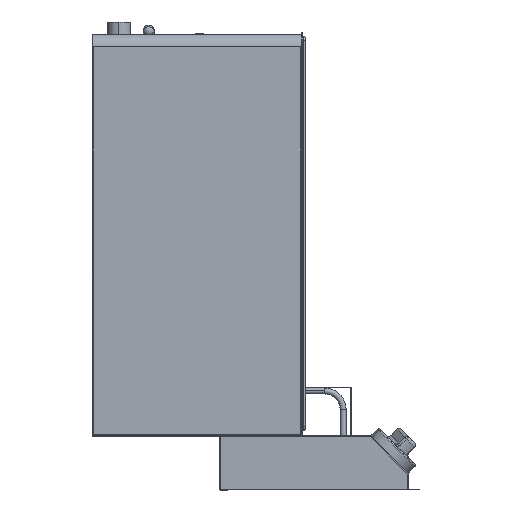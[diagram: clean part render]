
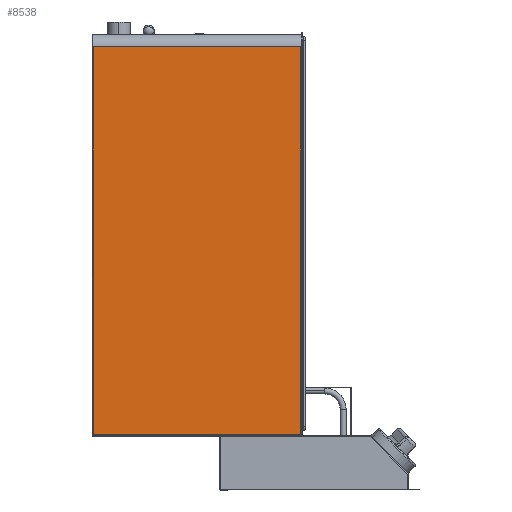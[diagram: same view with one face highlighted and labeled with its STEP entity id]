
A CAD part, left-side view. The second image highlights one B-rep face of the part: STEP entity #8538.
In plain terms, the highlighted planar face has unit normal (-1, 0, 0).
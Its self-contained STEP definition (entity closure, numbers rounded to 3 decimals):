
#127 = EDGE_CURVE ( 'NONE', #20613, #16788, #1795, .T. ) ;
#1113 = LINE ( 'NONE', #7967, #39597 ) ;
#1528 = EDGE_LOOP ( 'NONE', ( #27845, #22133, #25729, #45881 ) ) ;
#1795 = LINE ( 'NONE', #5803, #31312 ) ;
#2262 = CARTESIAN_POINT ( 'NONE',  ( -330., 138.263, 519. ) ) ;
#3596 = CARTESIAN_POINT ( 'NONE',  ( -330., 140., 1.737 ) ) ;
#5803 = CARTESIAN_POINT ( 'NONE',  ( -330., -138.263, 1.737 ) ) ;
#6497 = CARTESIAN_POINT ( 'NONE',  ( -330., -140., 519. ) ) ;
#7846 = CARTESIAN_POINT ( 'NONE',  ( -330., 0., 0. ) ) ;
#7967 = CARTESIAN_POINT ( 'NONE',  ( -330., 138.263, 519. ) ) ;
#8538 = ADVANCED_FACE ( 'NONE', ( #25830 ), #43805, .F. ) ;
#9822 = DIRECTION ( 'NONE',  ( 0., 1., 0. ) ) ;
#10259 = EDGE_CURVE ( 'NONE', #16788, #46688, #35863, .T. ) ;
#14070 = AXIS2_PLACEMENT_3D ( 'NONE', #7846, #36717, #14464 ) ;
#14464 = DIRECTION ( 'NONE',  ( 0., 0., -1. ) ) ;
#15573 = VECTOR ( 'NONE', #9822, 1000. ) ;
#16788 = VERTEX_POINT ( 'NONE', #36761 ) ;
#20613 = VERTEX_POINT ( 'NONE', #39301 ) ;
#22133 = ORIENTED_EDGE ( 'NONE', *, *, #10259, .T. ) ;
#22161 = DIRECTION ( 'NONE',  ( 0., 0., -1. ) ) ;
#25729 = ORIENTED_EDGE ( 'NONE', *, *, #44575, .T. ) ;
#25830 = FACE_OUTER_BOUND ( 'NONE', #1528, .T. ) ;
#27845 = ORIENTED_EDGE ( 'NONE', *, *, #127, .T. ) ;
#30887 = DIRECTION ( 'NONE',  ( 0., 0., 1. ) ) ;
#31312 = VECTOR ( 'NONE', #30887, 1000. ) ;
#35863 = LINE ( 'NONE', #6497, #15573 ) ;
#36115 = VECTOR ( 'NONE', #42637, 1000. ) ;
#36717 = DIRECTION ( 'NONE',  ( 1., 0., 0. ) ) ;
#36761 = CARTESIAN_POINT ( 'NONE',  ( -330., -138.263, 519. ) ) ;
#38420 = EDGE_CURVE ( 'NONE', #20613, #45103, #39083, .T. ) ;
#39083 = LINE ( 'NONE', #3596, #36115 ) ;
#39301 = CARTESIAN_POINT ( 'NONE',  ( -330., -138.263, 1.737 ) ) ;
#39597 = VECTOR ( 'NONE', #22161, 1000. ) ;
#42637 = DIRECTION ( 'NONE',  ( 0., 1., 0. ) ) ;
#43805 = PLANE ( 'NONE',  #14070 ) ;
#44575 = EDGE_CURVE ( 'NONE', #46688, #45103, #1113, .T. ) ;
#45103 = VERTEX_POINT ( 'NONE', #45671 ) ;
#45671 = CARTESIAN_POINT ( 'NONE',  ( -330., 138.263, 1.737 ) ) ;
#45881 = ORIENTED_EDGE ( 'NONE', *, *, #38420, .F. ) ;
#46688 = VERTEX_POINT ( 'NONE', #2262 ) ;
